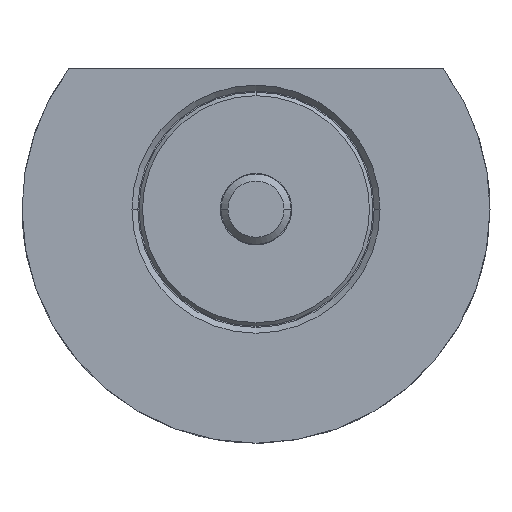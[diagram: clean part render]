
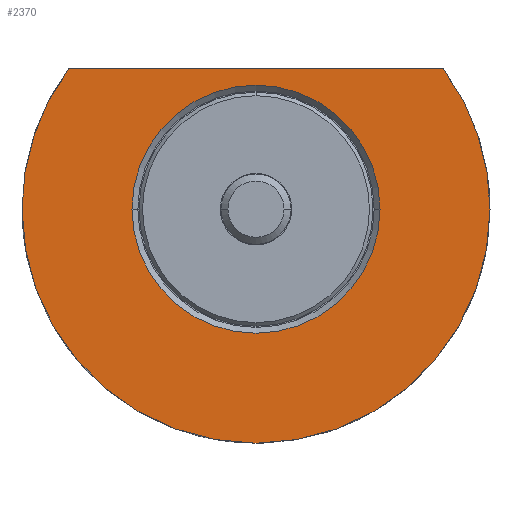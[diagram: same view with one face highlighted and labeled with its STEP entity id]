
A CAD part, front view. The second image highlights one B-rep face of the part: STEP entity #2370.
In plain terms, the highlighted planar face has unit normal (0, -1, 0).
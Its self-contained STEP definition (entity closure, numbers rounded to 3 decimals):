
#45 = DIRECTION ( 'NONE',  ( -1., 0., 0. ) ) ;
#94 = CIRCLE ( 'NONE', #858, 20. ) ;
#256 = VERTEX_POINT ( 'NONE', #1925 ) ;
#344 = EDGE_CURVE ( 'NONE', #1924, #256, #992, .T. ) ;
#382 = EDGE_LOOP ( 'NONE', ( #1176, #578, #602, #909 ) ) ;
#384 = DIRECTION ( 'NONE',  ( -1., 0., 0. ) ) ;
#418 = VECTOR ( 'NONE', #45, 1000. ) ;
#422 = CARTESIAN_POINT ( 'NONE',  ( -10.6, -10., 0. ) ) ;
#522 = AXIS2_PLACEMENT_3D ( 'NONE', #1998, #819, #1596 ) ;
#573 = CARTESIAN_POINT ( 'NONE',  ( 20., -10., 0. ) ) ;
#578 = ORIENTED_EDGE ( 'NONE', *, *, #2514, .T. ) ;
#602 = ORIENTED_EDGE ( 'NONE', *, *, #344, .F. ) ;
#688 = DIRECTION ( 'NONE',  ( 1., 0., 0. ) ) ;
#728 = EDGE_CURVE ( 'NONE', #1066, #1950, #94, .T. ) ;
#758 = CARTESIAN_POINT ( 'NONE',  ( -10.6, -10., 0. ) ) ;
#805 = AXIS2_PLACEMENT_3D ( 'NONE', #2435, #2392, #2379 ) ;
#819 = DIRECTION ( 'NONE',  ( 0., 1., 0. ) ) ;
#858 = AXIS2_PLACEMENT_3D ( 'NONE', #1987, #2602, #384 ) ;
#894 = AXIS2_PLACEMENT_3D ( 'NONE', #758, #1179, #688 ) ;
#909 = ORIENTED_EDGE ( 'NONE', *, *, #1759, .F. ) ;
#992 = CIRCLE ( 'NONE', #805, 20. ) ;
#1001 = DIRECTION ( 'NONE',  ( 0., 1., 0. ) ) ;
#1020 = CARTESIAN_POINT ( 'NONE',  ( 0., -10., 0. ) ) ;
#1042 = FACE_OUTER_BOUND ( 'NONE', #382, .T. ) ;
#1066 = VERTEX_POINT ( 'NONE', #1213 ) ;
#1085 = EDGE_CURVE ( 'NONE', #2104, #1348, #2243, .T. ) ;
#1176 = ORIENTED_EDGE ( 'NONE', *, *, #728, .F. ) ;
#1179 = DIRECTION ( 'NONE',  ( 0., -1., 0. ) ) ;
#1213 = CARTESIAN_POINT ( 'NONE',  ( 16.001, -10., 11.999 ) ) ;
#1250 = LINE ( 'NONE', #2275, #418 ) ;
#1261 = CARTESIAN_POINT ( 'NONE',  ( 0., -10., 0. ) ) ;
#1285 = AXIS2_PLACEMENT_3D ( 'NONE', #1020, #1001, #1629 ) ;
#1345 = CARTESIAN_POINT ( 'NONE',  ( 10.6, -10., 0. ) ) ;
#1348 = VERTEX_POINT ( 'NONE', #1345 ) ;
#1407 = AXIS2_PLACEMENT_3D ( 'NONE', #1261, #2061, #2273 ) ;
#1488 = CIRCLE ( 'NONE', #1285, 10.6 ) ;
#1584 = EDGE_CURVE ( 'NONE', #1348, #2104, #1488, .T. ) ;
#1596 = DIRECTION ( 'NONE',  ( -1., 0., 0. ) ) ;
#1615 = CIRCLE ( 'NONE', #1407, 20. ) ;
#1629 = DIRECTION ( 'NONE',  ( -1., 0., 0. ) ) ;
#1724 = EDGE_LOOP ( 'NONE', ( #1776, #2044 ) ) ;
#1759 = EDGE_CURVE ( 'NONE', #1950, #1924, #1615, .T. ) ;
#1776 = ORIENTED_EDGE ( 'NONE', *, *, #1584, .T. ) ;
#1905 = PLANE ( 'NONE',  #894 ) ;
#1924 = VERTEX_POINT ( 'NONE', #2113 ) ;
#1925 = CARTESIAN_POINT ( 'NONE',  ( -16.001, -10., 11.999 ) ) ;
#1950 = VERTEX_POINT ( 'NONE', #573 ) ;
#1987 = CARTESIAN_POINT ( 'NONE',  ( 0., -10., 0. ) ) ;
#1998 = CARTESIAN_POINT ( 'NONE',  ( 0., -10., 0. ) ) ;
#2036 = FACE_BOUND ( 'NONE', #1724, .T. ) ;
#2044 = ORIENTED_EDGE ( 'NONE', *, *, #1085, .T. ) ;
#2061 = DIRECTION ( 'NONE',  ( 0., 1., 0. ) ) ;
#2104 = VERTEX_POINT ( 'NONE', #422 ) ;
#2113 = CARTESIAN_POINT ( 'NONE',  ( -20., -10., 0. ) ) ;
#2243 = CIRCLE ( 'NONE', #522, 10.6 ) ;
#2273 = DIRECTION ( 'NONE',  ( -1., 0., 0. ) ) ;
#2275 = CARTESIAN_POINT ( 'NONE',  ( -10.6, -10., 11.999 ) ) ;
#2370 = ADVANCED_FACE ( 'NONE', ( #2036, #1042 ), #1905, .T. ) ;
#2379 = DIRECTION ( 'NONE',  ( -1., 0., 0. ) ) ;
#2392 = DIRECTION ( 'NONE',  ( 0., 1., 0. ) ) ;
#2435 = CARTESIAN_POINT ( 'NONE',  ( 0., -10., 0. ) ) ;
#2514 = EDGE_CURVE ( 'NONE', #1066, #256, #1250, .T. ) ;
#2602 = DIRECTION ( 'NONE',  ( 0., 1., 0. ) ) ;
